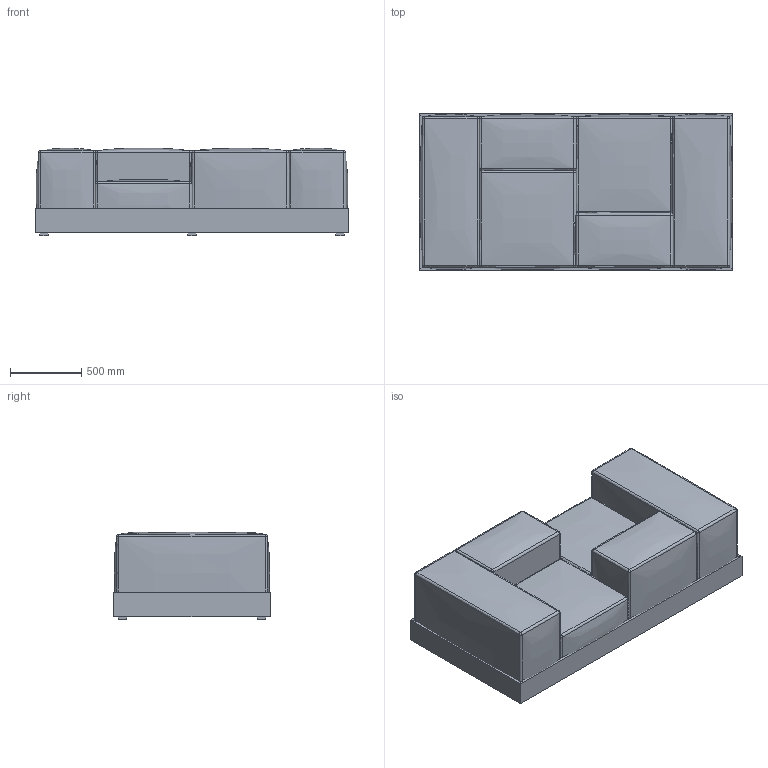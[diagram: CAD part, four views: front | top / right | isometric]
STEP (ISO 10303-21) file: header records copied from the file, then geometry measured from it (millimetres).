
FILE_DESCRIPTION(/* description */ (''),/* implementation_level */ '2;1');
FILE_NAME(/* name */ 'Polp1 220 brl vis a vis.step',/* time_stamp */ '2024-01-07T10:02:39+01:00',/* author */ (''),/* organization */ (''),/* preprocessor_version */ 'ST-DEVELOPER v20',/* originating_system */ 'Autodesk Translation Framework v12.14.0.127',/* authorisation */ '');
FILE_SCHEMA (('AUTOMOTIVE_DESIGN { 1 0 10303 214 3 1 1 }'));
Products named in the file (1): Polp1 220 brl vis a vis
Bounding box: 2200 x 1100 x 616 mm (x, y, z)
Volume: 1165057128.4 mm3; surface area: 19212095.4 mm2
Topology: 22 solids, 22 shells, 252 faces, 480 edges, 272 vertices
Faces by surface type: plane 106, bspline 94, sphere 48, cylinder 4
Entity records: 39985 total; most frequent: CARTESIAN_POINT 35376, ORIENTED_EDGE 960, DIRECTION 806, EDGE_CURVE 480, AXIS2_PLACEMENT_3D 303, VERTEX_POINT 272, FACE_OUTER_BOUND 252, EDGE_LOOP 252
